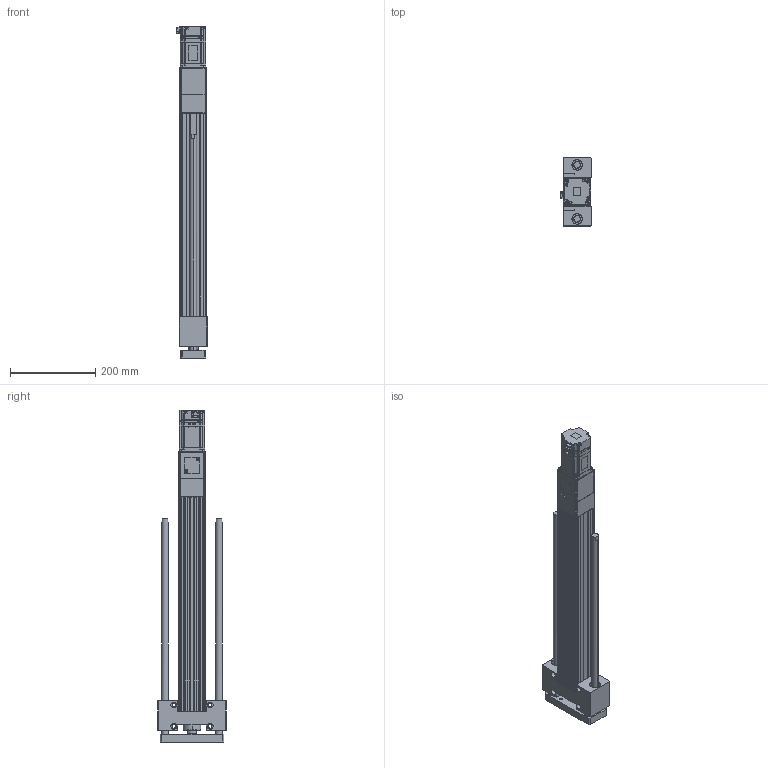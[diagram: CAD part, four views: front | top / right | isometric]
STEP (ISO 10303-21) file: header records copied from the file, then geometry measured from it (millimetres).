
FILE_DESCRIPTION (( 'STEP AP203' ), '1' );
FILE_NAME ('ANS065R-HS400-05(10)(20)-W40.STEP', '2019-03-01T09:22:04', ( 'user' ), ( '' ), 'SwSTEP 2.0', 'SolidWorks 2013', '' );
FILE_SCHEMA (( 'CONFIG_CONTROL_DESIGN' ));
Length unit declared in the file: millimetre
Products named in the file (4): ANS065R HS400 VER2; ANS065 ROD ST400 H; sgmjv_04a_a21; ANS065R-HS400-05(10)(20)-W40
Assembly tree (3 placements, depth 2):
  ANS065R-HS400-05(10)(20)-W40
    ANS065R HS400 VER2
    ANS065 ROD ST400 H
    sgmjv_04a_a21
Bounding box: 72.3 x 160 x 780.6 mm (x, y, z)
Volume: 2628766.5 mm3; surface area: 586494.8 mm2
Topology: 3 solids, 7 shells, 1236 faces, 3237 edges, 2087 vertices
Faces by surface type: plane 696, cylinder 430, cone 110
Entity records: 38235 total; most frequent: CARTESIAN_POINT 6780, DIRECTION 6559, ORIENTED_EDGE 6418, EDGE_CURVE 3209, VECTOR 2199, LINE 2199, AXIS2_PLACEMENT_3D 2180, VERTEX_POINT 2087
